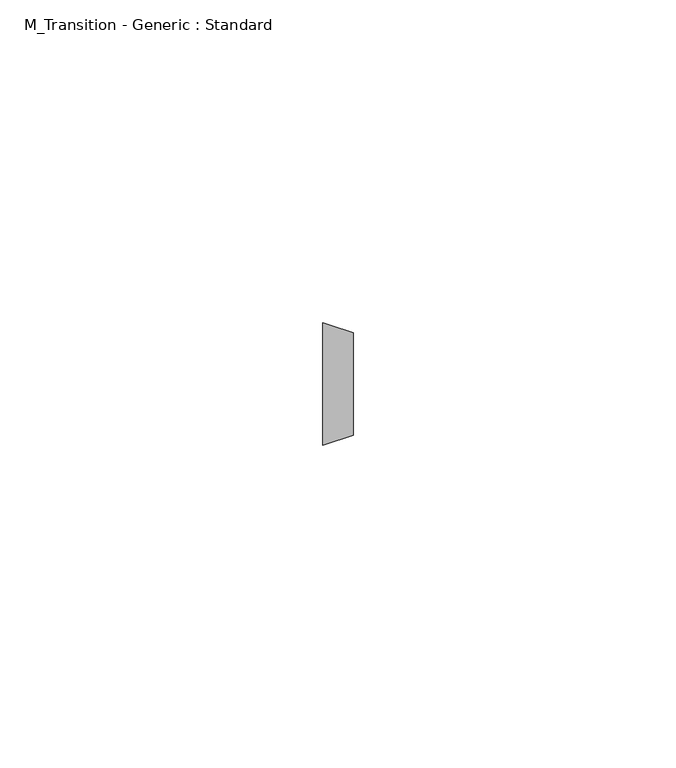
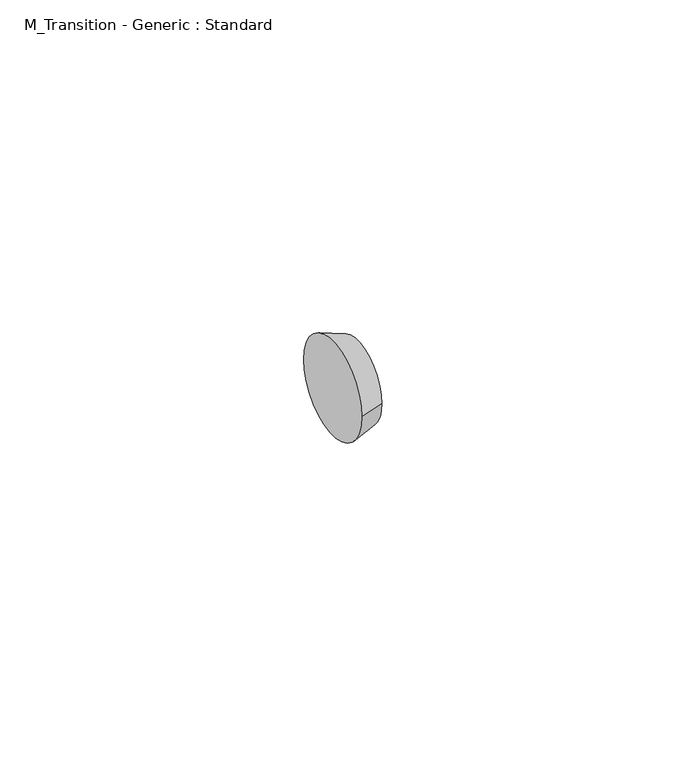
"""IFC4 building model written with IfcOpenShell, lengths in millimetres: pipe fitting geometry, M_Transition - Generic : Standard."""

from ifc_helpers import new_model, si_unit, frame, origin, place, context, project, spatial, polyline, circle_curve, source, transform, mapped, element, save
from ifc_brep_helpers import plane_surface, revolved_surface, advanced_brep


def m_transition_generic_standard_6dc712c0(model_context):
    return source(origin(), model_context, "Body", "AdvancedBrep", [
        advanced_brep(
        [(4.7625, -7.9375, 0.0), (4.7625, 7.9375, 0.0), (0.0, -9.525, 0.0), (0.0, 9.525, 0.0)],
        [
            (0, 1, circle_curve(frame((4.7625, 0.0, 0.0), z_axis=(1.0, 0.0, 1.1674493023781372e-12), x_axis=(0.0, -1.0, 0.0)), 7.9375)),
            (1, 0, circle_curve(frame((4.7625, 0.0, 0.0), z_axis=(1.0, 0.0, 1.1674493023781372e-12), x_axis=(0.0, 1.0, 0.0)), 7.9375)),
            (2, 3, circle_curve(frame((0.0, 0.0, 0.0), z_axis=(-1.0, 0.0, -1.1674493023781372e-12), x_axis=(0.0, 1.0, 0.0)), 9.525)),
            (3, 2, circle_curve(frame((0.0, 0.0, 0.0), z_axis=(-1.0, 0.0, -1.1674493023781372e-12), x_axis=(0.0, -1.0, 0.0)), 9.525)),
            (3, 1),
            (0, 2),
        ],
        [
            plane_surface(frame((4.7625, 0.0, 0.0), z_axis=(1.0, 0.0, 0.0), x_axis=(0.0, 0.0, -1.0))),
            plane_surface(frame((0.0, 0.0, 0.0), z_axis=(-1.0, 0.0, 0.0), x_axis=(0.0, 0.0, -1.0))),
            revolved_surface(polyline([(4.762499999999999, -7.937500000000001, 0.0), (0.0, -9.525, 0.0)]), (28.575, 0.0, 0.0), (-1.0, 0.0, -1.1674493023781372e-12)),
            revolved_surface(polyline([(4.762499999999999, 7.937500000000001, 0.0), (0.0, 9.525, 0.0)]), (28.575, 0.0, 0.0), (-1.0, 0.0, -1.1674493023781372e-12)),
        ],
        [
            (0, [[1, 2]]),
            (1, [[3, 4]]),
            (2, [[-4, 5, -1, 6]]),
            (3, [[-3, -6, -2, -5]]),
        ],
    ),
    ])


if __name__ == "__main__":
    model = new_model("IFC4")
    model_context = context("Model", 3, world=origin())
    ifc_project = project(units=[si_unit("LENGTHUNIT", "METRE", prefix="MILLI")], contexts=[model_context])
    site = spatial("IfcSite", under=ifc_project)
    building = spatial("IfcBuilding", under=site)
    placement = place(None, origin())
    m_transition_generic_standard_shape = m_transition_generic_standard_6dc712c0(model_context)
    element("IfcPipeFitting", 1, ObjectType="M_Transition - Generic : Standard", at=placement, inside=building, context=model_context, shape_type="MappedRepresentation", body=[
        mapped(m_transition_generic_standard_shape, transform((0.0, 0.0, 0.0), x_axis=(1.0, 0.0, 0.0), y_axis=(0.0, 1.0, 0.0), z_axis=(0.0, 0.0, 1.0))),
    ])
    save(model, "model.ifc")
